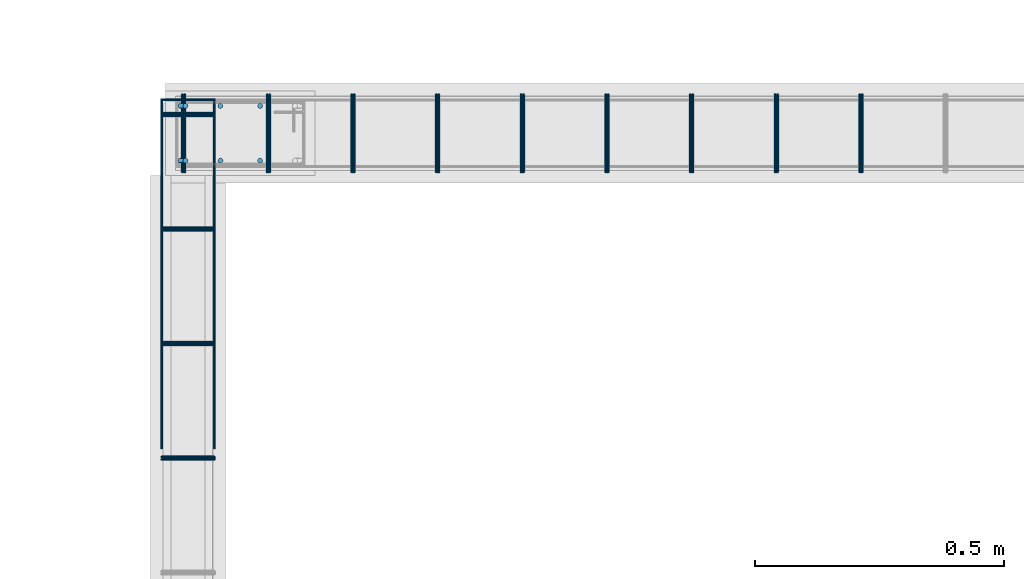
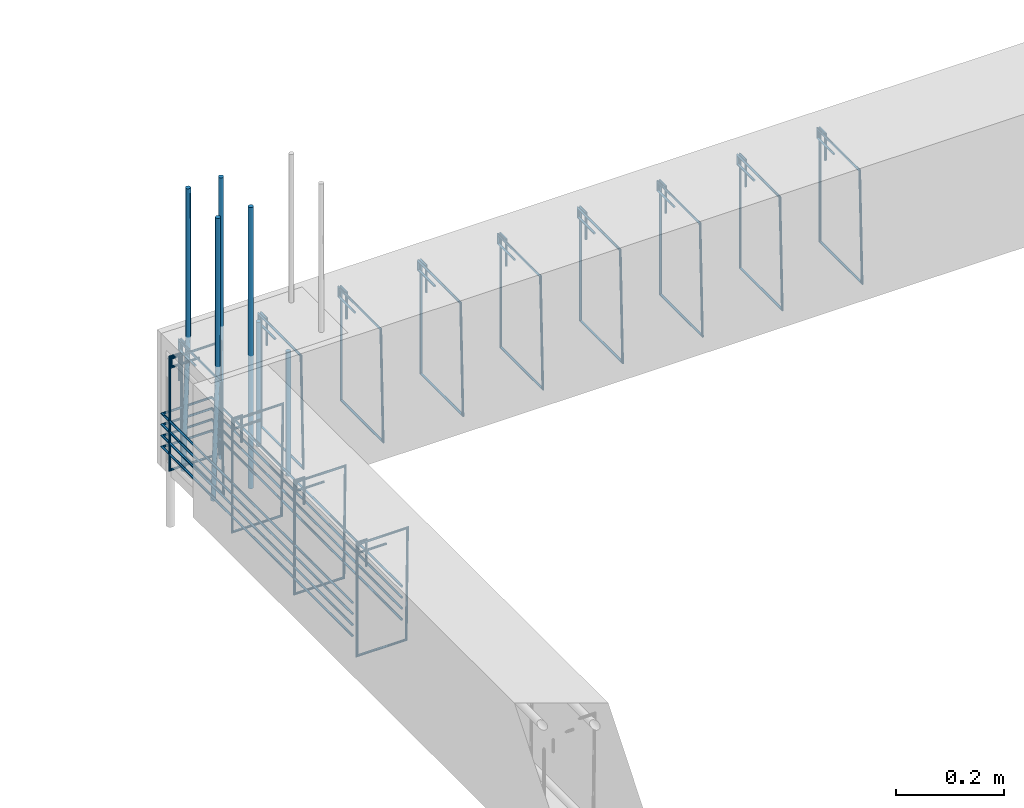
# One storey, part 130 of 150: 23 reinforcing bars.
"""IFC4 building model written with IfcOpenShell, lengths in centimetres."""

import ifcopenshell
import ifcopenshell.guid

model = None  # the IFC model being written
_history = None  # IfcOwnerHistory: only IFC2X3 demands one
_inside = {}  # id of a spatial element -> (the spatial element, [elements in it])
_under = {}  # id of a project, library or spatial element -> (it, [spatial elements below it])
_declared = {}  # id of a project -> (the project, [libraries it declares])
_typed = {}  # id of a type object -> (the type object, [elements of that type])
_made_of = {}  # id of a material, layer set ... -> (it, [elements and type objects made of it])


def new_model(schema):
    """Start an empty IFC model of exactly this schema.

    Asked for "IFC4X3", IfcOpenShell would pick the latest addendum, in which some entities
    have other attributes; the version numbers below select the first issue.
    IFC2X3 requires an IfcOwnerHistory on every rooted entity: one is made here for all.
    """
    global model, _history
    if schema == "IFC4X3":
        model = ifcopenshell.file(schema_version=(4, 3, 0, 0))
    else:
        model = ifcopenshell.file(schema=schema)
    _inside.clear()
    _under.clear()
    _declared.clear()
    _typed.clear()
    _made_of.clear()
    _history = None
    if model.schema == "IFC2X3":
        org = make("IfcOrganization", Name="unknown")
        user = make(
            "IfcPersonAndOrganization",
            ThePerson=make("IfcPerson", FamilyName="unknown"),
            TheOrganization=org,
        )
        app = make(
            "IfcApplication",
            ApplicationDeveloper=org,
            Version="unknown",
            ApplicationFullName="unknown",
            ApplicationIdentifier="unknown",
        )
        _history = make(
            "IfcOwnerHistory",
            OwningUser=user,
            OwningApplication=app,
            ChangeAction="ADDED",
            CreationDate=0,
        )
    return model


def make(cls, **values):
    """One entity of the class cls with the attributes given. An attribute that is None is left unset."""
    return model.create_entity(
        cls, **{name: value for name, value in values.items() if value is not None}
    )


def entity(cls, *values):
    """Any entity or typed value of the class cls, its attributes in the order of the schema. None: left unset."""
    e = model.create_entity(cls)
    for i, value in enumerate(values):
        if value is not None:
            e[i] = value
    return e


def rooted(cls, **values):
    """An entity with a GlobalId (a new one), such as an element, a storey or a relation."""
    return make(cls, GlobalId=ifcopenshell.guid.new(), OwnerHistory=_history, **values)


def si_unit(unit_type, name, prefix=None):
    """IfcSIUnit, for example si_unit("LENGTHUNIT", "METRE", prefix="MILLI")."""
    return make("IfcSIUnit", UnitType=unit_type, Prefix=prefix, Name=name)


def derived_unit(unit_type, elements):
    """IfcDerivedUnit: a product of units, each with its exponent."""
    return make(
        "IfcDerivedUnit",
        Elements=[
            make("IfcDerivedUnitElement", Unit=unit, Exponent=power)
            for unit, power in elements
        ],
        UnitType=unit_type,
    )


def assignment(units):
    """IfcUnitAssignment: the units of a project."""
    return None if units is None else make("IfcUnitAssignment", Units=units)


def point(xyz):
    """IfcCartesianPoint."""
    return None if xyz is None else make("IfcCartesianPoint", Coordinates=xyz)


def direction(xyz):
    """IfcDirection."""
    return None if xyz is None else make("IfcDirection", DirectionRatios=xyz)


def frame(location, z_axis=None, x_axis=None):
    """IfcAxis2Placement3D, a coordinate frame: its origin and axes. An axis left out is left unset."""
    return make(
        "IfcAxis2Placement3D",
        Location=point(location),
        Axis=direction(z_axis),
        RefDirection=direction(x_axis),
    )


def origin_with_axes():
    """The frame at (0, 0, 0) with the z axis (0, 0, 1) and the x axis (1, 0, 0) written out."""
    return frame((0.0, 0.0, 0.0), z_axis=(0.0, 0.0, 1.0), x_axis=(1.0, 0.0, 0.0))


def place(relative_to, where):
    """IfcLocalPlacement: puts the frame where relative to a parent placement (None: the world)."""
    return make(
        "IfcLocalPlacement", PlacementRelTo=relative_to, RelativePlacement=where
    )


def context(
    kind, dimensions, precision=None, world=None, true_north=None, identifier=None
):
    """IfcGeometricRepresentationContext, for example the 3D "Model" context."""
    return make(
        "IfcGeometricRepresentationContext",
        ContextIdentifier=identifier,
        ContextType=kind,
        CoordinateSpaceDimension=dimensions,
        Precision=precision,
        WorldCoordinateSystem=world,
        TrueNorth=true_north,
    )


def project(units=None, contexts=None):
    """IfcProject with its units and contexts."""
    return rooted(
        "IfcProject",
        Name="project",
        RepresentationContexts=contexts,
        UnitsInContext=assignment(units),
    )


def spatial(cls, under=None, at=None, **own):
    """A site, building, storey or space (cls), placed at a placement, below another one or the project."""
    s = rooted(cls, ObjectPlacement=at, **own)
    if under is not None:
        _under.setdefault(under.id(), (under, []))[1].append(s)
    return s


def shape(context_of_items, identifier, shape_type, items):
    """IfcShapeRepresentation: the items that make up one representation, for example the "Body"."""
    return make(
        "IfcShapeRepresentation",
        ContextOfItems=context_of_items,
        RepresentationIdentifier=identifier,
        RepresentationType=shape_type,
        Items=items,
    )


def source(mapping_origin, context_of_items, identifier, shape_type, items):
    """IfcRepresentationMap: a shape defined once, which mapped items show again and again."""
    return make(
        "IfcRepresentationMap",
        MappingOrigin=mapping_origin,
        MappedRepresentation=shape(context_of_items, identifier, shape_type, items),
    )


def transform(
    local_origin,
    x_axis=None,
    y_axis=None,
    z_axis=None,
    scale=None,
    scale2=None,
    scale3=None,
    uniform=True,
):
    """IfcCartesianTransformationOperator3D, or its non-uniform kind. x_axis, y_axis, z_axis: its Axis1, 2, 3."""
    if uniform:
        return make(
            "IfcCartesianTransformationOperator3D",
            Axis1=direction(x_axis),
            Axis2=direction(y_axis),
            LocalOrigin=point(local_origin),
            Scale=scale,
            Axis3=direction(z_axis),
        )
    return make(
        "IfcCartesianTransformationOperator3DnonUniform",
        Axis1=direction(x_axis),
        Axis2=direction(y_axis),
        LocalOrigin=point(local_origin),
        Scale=scale,
        Axis3=direction(z_axis),
        Scale2=scale2,
        Scale3=scale3,
    )


def mapped(mapping_source, mapping_target):
    """IfcMappedItem: shows the shape of a source again, moved by a transform."""
    return make(
        "IfcMappedItem", MappingSource=mapping_source, MappingTarget=mapping_target
    )


def made_of(thing, what):
    """Note that an element or type object is made of a material, layer set ...; save() writes the relation."""
    if what is not None:
        _made_of.setdefault(what.id(), (what, []))[1].append(thing)
    return thing


def element(
    cls,
    number,
    at=None,
    inside=None,
    cuts=None,
    type_object=None,
    material=None,
    context=None,
    identifier="Body",
    shape_type=None,
    held_by="IfcProductDefinitionShape",
    body=None,
    shapes=None,
    **own,
):
    """One element of the class cls, such as IfcWall. Its Tag is "e" and its number.

    at: its placement. inside: the storey or other place that contains it. cuts: it is an
    opening in that element (IfcRelVoidsElement). A single representation is given by context,
    identifier, shape_type and body (its items); several are given by shapes. held_by: the class
    of the entity that holds the representations. save() writes the other relations.
    """
    e = rooted(cls, Tag="e%d" % number, ObjectPlacement=at, **own)
    if body is not None:
        shapes = [shape(context, identifier, shape_type, body)]
    if shapes is not None:
        e.Representation = make(held_by, Representations=shapes)
    if inside is not None:
        _inside.setdefault(inside.id(), (inside, []))[1].append(e)
    if cuts is not None:
        rooted(
            "IfcRelVoidsElement", RelatingBuildingElement=cuts, RelatedOpeningElement=e
        )
    if type_object is not None:
        _typed.setdefault(type_object.id(), (type_object, []))[1].append(e)
    return made_of(e, material)


def aggregate(whole, parts):
    """IfcRelAggregates: a whole, such as a stair, and the parts it consists of."""
    return rooted("IfcRelAggregates", RelatingObject=whole, RelatedObjects=parts)


def save(model, path):
    """Write the relations noted so far, then the file.

    IfcRelAggregates (storeys below a building ...), IfcRelContainedInSpatialStructure (elements
    in a storey), IfcRelDefinesByType, IfcRelAssociatesMaterial and IfcRelDeclares: one each for
    every whole, place, type object, material and project.
    """
    for whole, parts in _under.values():
        aggregate(whole, parts)
    for where, things in _inside.values():
        rooted(
            "IfcRelContainedInSpatialStructure",
            RelatedElements=things,
            RelatingStructure=where,
        )
    for kind, things in _typed.values():
        rooted("IfcRelDefinesByType", RelatedObjects=things, RelatingType=kind)
    for what, things in _made_of.values():
        rooted("IfcRelAssociatesMaterial", RelatedObjects=things, RelatingMaterial=what)
    for by, libraries in _declared.values():
        rooted("IfcRelDeclares", RelatingContext=by, RelatedDefinitions=libraries)
    model.write(path)


model = new_model("IFC4")

# Units and contexts
model_context = context("Model", 3, precision=1e-05, world=origin_with_axes(), identifier="Body")
ifc_project = project(units=[si_unit("LENGTHUNIT", "METRE", prefix="CENTI"), si_unit("VOLUMEUNIT", "CUBIC_METRE"), si_unit("AREAUNIT", "SQUARE_METRE"), si_unit("POWERUNIT", "WATT"), si_unit("LUMINOUSFLUXUNIT", "LUMEN"), si_unit("ELECTRICCURRENTUNIT", "AMPERE"), si_unit("PRESSUREUNIT", "PASCAL", prefix="KILO"), si_unit("MASSUNIT", "GRAM", prefix="KILO"), si_unit("PLANEANGLEUNIT", "RADIAN"), derived_unit("VOLUMETRICFLOWRATEUNIT", [(si_unit("LENGTHUNIT", "METRE"), 3), (si_unit("TIMEUNIT", "SECOND"), -1)])], contexts=[model_context])

# Site, building, storey
site_placement = place(None, frame((-4000.0, 0.0, 0.0), z_axis=(0.0, 0.0, 1.0), x_axis=(1.0, 0.0, 0.0)))
site = spatial("IfcSite", under=ifc_project, at=site_placement, Name="PADRÃO")
building_placement = place(site_placement, frame((0.0, 0.0, -14.0)))
building = spatial("IfcBuilding", under=site, at=building_placement, Name="CRECHE PRÉ-ESCOLA TIPO 2")
placement = place(building_placement, origin_with_axes())
storey_placement = place(placement, frame((0.0, 0.0, 30.0), z_axis=(0.0, 0.0, 1.0), x_axis=(1.0, 0.0, 0.0)))
storey = spatial("IfcBuildingStorey", under=building, at=storey_placement, Name="VIGA BALDRAME", CompositionType="ELEMENT", Elevation=16.0)

# Reinforcing bars
shared_shape_1 = source(origin_with_axes(), model_context, "Body", "AdvancedSweptSolid", [
    entity("IfcSweptDiskSolid", entity("IfcCompositeCurve", [entity("IfcCompositeCurveSegment", "CONTINUOUS", True, entity("IfcPolyline", [entity("IfcCartesianPoint", [2.0, -6.0, 0.0]), entity("IfcCartesianPoint", [2.0, 0.0, 0.0])])), entity("IfcCompositeCurveSegment", "CONTINUOUS", True, entity("IfcPolyline", [entity("IfcCartesianPoint", [2.0, 0.0, 0.0]), entity("IfcCartesianPoint", [0.0, 0.0, 0.0])])), entity("IfcCompositeCurveSegment", "CONTINUOUS", True, entity("IfcPolyline", [entity("IfcCartesianPoint", [0.0, 0.0, 0.0]), entity("IfcCartesianPoint", [0.0, -25.5, 0.0])])), entity("IfcCompositeCurveSegment", "CONTINUOUS", True, entity("IfcPolyline", [entity("IfcCartesianPoint", [0.0, -25.5, 0.0]), entity("IfcCartesianPoint", [10.5, -25.5, 0.0])])), entity("IfcCompositeCurveSegment", "CONTINUOUS", True, entity("IfcPolyline", [entity("IfcCartesianPoint", [10.5, -25.5, 0.0]), entity("IfcCartesianPoint", [10.5, 0.0, 0.5])])), entity("IfcCompositeCurveSegment", "CONTINUOUS", True, entity("IfcPolyline", [entity("IfcCartesianPoint", [10.5, 0.0, 0.5]), entity("IfcCartesianPoint", [0.0, 0.0, 0.5])])), entity("IfcCompositeCurveSegment", "CONTINUOUS", True, entity("IfcPolyline", [entity("IfcCartesianPoint", [0.0, 0.0, 0.5]), entity("IfcCartesianPoint", [0.0, -2.0, 0.5])])), entity("IfcCompositeCurveSegment", "CONTINUOUS", True, entity("IfcPolyline", [entity("IfcCartesianPoint", [0.0, -2.0, 0.5]), entity("IfcCartesianPoint", [6.0, -2.0, 0.5])]))], False), 0.25),
])
for number, where, z_axis, x_axis, name in (
    (1, (2251.01, 3989.01, -2.25), (0.0, -1.0, 0.0), (1.0, 0.0, 0.0), "V193 - Estribo"),
    (2, (2251.01, 3920.01, -2.25), (0.0, -1.0, 0.0), (1.0, 0.0, 0.0), "V193 - Estribo"),
    (3, (2251.01, 3943.01, -2.25), (0.0, -1.0, 0.0), (1.0, 0.0, 0.0), "V193 - Estribo"),
    (4, (2251.01, 3966.01, -2.25), (0.0, -1.0, 0.0), (1.0, 0.0, 0.0), "V193 - Estribo"),
):
    element("IfcReinforcingBar", number, at=place(storey_placement, frame(where, z_axis=z_axis, x_axis=x_axis)), inside=storey, Name=name, BarLength=0.0, CrossSectionArea=1.9634954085e-05, NominalDiameter=0.5, PredefinedType="MAIN", context=model_context, shape_type="MappedRepresentation", body=[
        mapped(shared_shape_1, transform((0.0, 0.0, 0.0), scale=1.0)),
    ])
shared_shape_2 = source(origin_with_axes(), model_context, "Body", "AdvancedSweptSolid", [
    entity("IfcSweptDiskSolid", entity("IfcCompositeCurve", [entity("IfcCompositeCurveSegment", "CONTINUOUS", True, entity("IfcPolyline", [entity("IfcCartesianPoint", [0.0, 0.0, 0.0]), entity("IfcCartesianPoint", [0.0, 70.1819359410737, 0.0])])), entity("IfcCompositeCurveSegment", "CONTINUOUS", True, entity("IfcPolyline", [entity("IfcCartesianPoint", [0.0, 70.1819359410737, 0.0]), entity("IfcCartesianPoint", [-10.5, 70.1819359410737, 0.0])])), entity("IfcCompositeCurveSegment", "CONTINUOUS", True, entity("IfcPolyline", [entity("IfcCartesianPoint", [-10.5, 70.1819359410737, 0.0]), entity("IfcCartesianPoint", [-10.5, 0.0, 0.0])]))], False), 0.25),
])
for number, where, z_axis, x_axis, name in (
    (5, (2261.51, 3921.56806405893, -21.7), (0.0, 0.0, 1.0), (1.0, 0.0, 0.0), "V193 - Grampo"),
    (6, (2261.51, 3921.56806405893, -16.7), (0.0, 0.0, 1.0), (1.0, 0.0, 0.0), "V193 - Grampo"),
    (7, (2261.51, 3921.56806405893, -19.2), (0.0, 0.0, 1.0), (1.0, 0.0, 0.0), "V193 - Grampo"),
    (8, (2261.51, 3921.56806405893, -24.2), (0.0, 0.0, 1.0), (1.0, 0.0, 0.0), "V193 - Grampo"),
):
    element("IfcReinforcingBar", number, at=place(storey_placement, frame(where, z_axis=z_axis, x_axis=x_axis)), inside=storey, Name=name, BarLength=0.0, CrossSectionArea=1.9634954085e-05, NominalDiameter=0.5, PredefinedType="MAIN", context=model_context, shape_type="MappedRepresentation", body=[
        mapped(shared_shape_2, transform((0.0, 0.0, 0.0), scale=1.0)),
    ])
shared_shape_3 = source(origin_with_axes(), model_context, "Body", "AdvancedSweptSolid", [
    entity("IfcSweptDiskSolid", entity("IfcCompositeCurve", [entity("IfcCompositeCurveSegment", "CONTINUOUS", True, entity("IfcPolyline", [entity("IfcCartesianPoint", [2.0, -6.0, 0.0]), entity("IfcCartesianPoint", [2.0, 0.0, 0.0])])), entity("IfcCompositeCurveSegment", "CONTINUOUS", True, entity("IfcPolyline", [entity("IfcCartesianPoint", [2.0, 0.0, 0.0]), entity("IfcCartesianPoint", [0.0, 0.0, 0.0])])), entity("IfcCompositeCurveSegment", "CONTINUOUS", True, entity("IfcPolyline", [entity("IfcCartesianPoint", [0.0, 0.0, 0.0]), entity("IfcCartesianPoint", [0.0, -25.5, 0.0])])), entity("IfcCompositeCurveSegment", "CONTINUOUS", True, entity("IfcPolyline", [entity("IfcCartesianPoint", [0.0, -25.5, 0.0]), entity("IfcCartesianPoint", [15.5, -25.5, 0.0])])), entity("IfcCompositeCurveSegment", "CONTINUOUS", True, entity("IfcPolyline", [entity("IfcCartesianPoint", [15.5, -25.5, 0.0]), entity("IfcCartesianPoint", [15.5, 0.0, 0.5])])), entity("IfcCompositeCurveSegment", "CONTINUOUS", True, entity("IfcPolyline", [entity("IfcCartesianPoint", [15.5, 0.0, 0.5]), entity("IfcCartesianPoint", [0.0, 0.0, 0.5])])), entity("IfcCompositeCurveSegment", "CONTINUOUS", True, entity("IfcPolyline", [entity("IfcCartesianPoint", [0.0, 0.0, 0.5]), entity("IfcCartesianPoint", [0.0, -2.0, 0.5])])), entity("IfcCompositeCurveSegment", "CONTINUOUS", True, entity("IfcPolyline", [entity("IfcCartesianPoint", [0.0, -2.0, 0.5]), entity("IfcCartesianPoint", [6.0, -2.0, 0.5])]))], False), 0.25),
])
for number, where, z_axis, x_axis, name in (
    (9, (2255.645, 3992.75, -2.25), (-1.0, 0.0, 0.0), (0.0, -1.0, 0.0), "V106 - Estribo"),
    (10, (2306.645, 3992.75, -2.25), (-1.0, 0.0, 0.0), (0.0, -1.0, 0.0), "V106 - Estribo"),
    (11, (2340.645, 3992.75, -2.25), (-1.0, 0.0, 0.0), (0.0, -1.0, 0.0), "V106 - Estribo"),
    (12, (2289.645, 3992.75, -2.25), (-1.0, 0.0, 0.0), (0.0, -1.0, 0.0), "V106 - Estribo"),
    (13, (2323.645, 3992.75, -2.25), (-1.0, 0.0, 0.0), (0.0, -1.0, 0.0), "V106 - Estribo"),
    (14, (2391.645, 3992.75, -2.25), (-1.0, 0.0, 0.0), (0.0, -1.0, 0.0), "V106 - Estribo"),
    (15, (2374.645, 3992.75, -2.25), (-1.0, 0.0, 0.0), (0.0, -1.0, 0.0), "V106 - Estribo"),
    (16, (2357.645, 3992.75, -2.25), (-1.0, 0.0, 0.0), (0.0, -1.0, 0.0), "V106 - Estribo"),
    (17, (2272.645, 3992.75, -2.25), (-1.0, 0.0, 0.0), (0.0, -1.0, 0.0), "V106 - Estribo"),
):
    element("IfcReinforcingBar", number, at=place(storey_placement, frame(where, z_axis=z_axis, x_axis=x_axis)), inside=storey, Name=name, BarLength=0.0, CrossSectionArea=1.9634954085e-05, NominalDiameter=0.5, PredefinedType="MAIN", context=model_context, shape_type="MappedRepresentation", body=[
        mapped(shared_shape_3, transform((0.0, 0.0, 0.0), scale=1.0)),
    ])
for number, where, z_axis, x_axis, name in (
    (18, (2270.76, 3979.5, -2.0), (0.0, 0.0, 1.0), (1.0, 0.0, 0.0), "P26 - Longitudinal"),
    (19, (2270.76, 3990.5, -2.0), (0.0, 0.0, 1.0), (1.0, 0.0, 0.0), "P26 - Longitudinal"),
):
    element("IfcReinforcingBar", number, at=place(storey_placement, frame(where, z_axis=z_axis, x_axis=x_axis)), inside=storey, Name=name, BarLength=0.0, CrossSectionArea=7.853981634e-05, NominalDiameter=1.0, PredefinedType="MAIN", context=model_context, shape_type="AdvancedSweptSolid", body=[
        entity("IfcSweptDiskSolid", entity("IfcCompositeCurve", [entity("IfcCompositeCurveSegment", "CONTINUOUS", True, entity("IfcPolyline", [entity("IfcCartesianPoint", [0.0, 0.0, -28.0]), entity("IfcCartesianPoint", [0.0, 0.0, 0.0])]))], False), 0.5),
    ])
reinforcing_bar_1_placement = place(storey_placement, frame((2262.76, 3990.5, 33.3573001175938), z_axis=(0.0, 0.0, 1.0), x_axis=(1.0, 0.0, 0.0)))
element("IfcReinforcingBar", 20, at=reinforcing_bar_1_placement, inside=storey, Name="P26 - Longitudinal", BarLength=0.0, CrossSectionArea=7.853981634e-05, NominalDiameter=1.0, PredefinedType="MAIN", context=model_context, shape_type="AdvancedSweptSolid", body=[
    entity("IfcSweptDiskSolid", entity("IfcCompositeCurve", [entity("IfcCompositeCurveSegment", "CONTINUOUS", True, entity("IfcPolyline", [entity("IfcCartesianPoint", [0.0, 0.0, -63.3573001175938]), entity("IfcCartesianPoint", [0.0, 0.0, 0.0])]))], False), 0.5),
])
for number, where, z_axis, x_axis, name in (
    (21, (2255.26013877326, 3990.5, 33.3573001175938), (0.0, 0.0, 1.0), (1.0, 0.0, 0.0), "P26 - Longitudinal"),
    (22, (2255.26013877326, 3979.5, 33.3573001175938), (0.0, 0.0, 1.0), (1.0, 0.0, 0.0), "P26 - Longitudinal"),
):
    element("IfcReinforcingBar", number, at=place(storey_placement, frame(where, z_axis=z_axis, x_axis=x_axis)), inside=storey, Name=name, BarLength=0.0, CrossSectionArea=7.853981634e-05, NominalDiameter=1.0, PredefinedType="MAIN", context=model_context, shape_type="AdvancedSweptSolid", body=[
        entity("IfcSweptDiskSolid", entity("IfcCompositeCurve", [entity("IfcCompositeCurveSegment", "CONTINUOUS", True, entity("IfcPolyline", [entity("IfcCartesianPoint", [-0.500138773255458, 0.0, -63.3573001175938]), entity("IfcCartesianPoint", [0.499861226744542, 0.0, -33.3573001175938])])), entity("IfcCompositeCurveSegment", "CONTINUOUS", True, entity("IfcPolyline", [entity("IfcCartesianPoint", [0.499861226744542, 0.0, -33.3573001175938]), entity("IfcCartesianPoint", [0.499861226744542, 0.0, 0.0])]))], False), 0.5),
    ])
reinforcing_bar_2_placement = place(storey_placement, frame((2262.76, 3979.5, 33.3573001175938), z_axis=(0.0, 0.0, 1.0), x_axis=(1.0, 0.0, 0.0)))
element("IfcReinforcingBar", 23, at=reinforcing_bar_2_placement, inside=storey, Name="P26 - Longitudinal", BarLength=0.0, CrossSectionArea=7.853981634e-05, NominalDiameter=1.0, PredefinedType="MAIN", context=model_context, shape_type="AdvancedSweptSolid", body=[
    entity("IfcSweptDiskSolid", entity("IfcCompositeCurve", [entity("IfcCompositeCurveSegment", "CONTINUOUS", True, entity("IfcPolyline", [entity("IfcCartesianPoint", [0.0, 0.0, -63.3573001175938]), entity("IfcCartesianPoint", [0.0, 0.0, 0.0])]))], False), 0.5),
])

save(model, "model.ifc")
